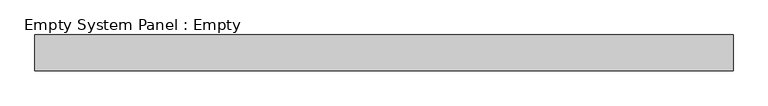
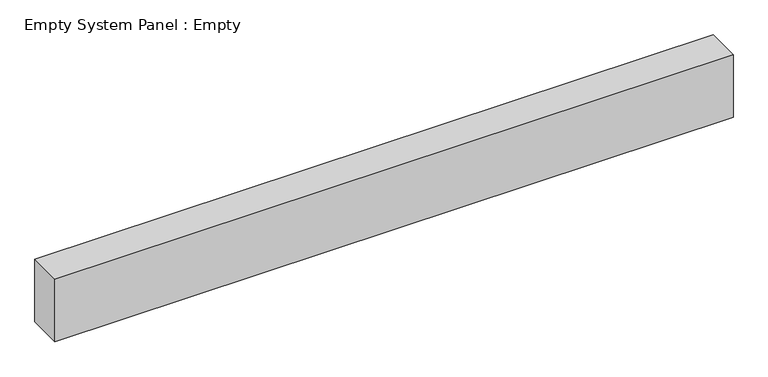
"""IFC4 building model written with IfcOpenShell, lengths in millimetres: plate geometry, Empty System Panel : Empty."""

from ifc_helpers import new_model, si_unit, origin, origin_with_axes, place, context, project, spatial, polyline, outline, extrude, source, transform, mapped, element, save


def empty_system_panel_empty_fbe7752e(model_context):
    return source(origin(), model_context, "Body", "SweptSolid", [
        extrude(outline(polyline([(975.0, -50.0), (-975.0, -50.0), (-975.0, 50.0), (975.0, 50.0), (975.0, -50.0)])), origin_with_axes(), (0.0, 0.0, 1.0), 190.0),
    ])


if __name__ == "__main__":
    model = new_model("IFC4")
    model_context = context("Model", 3, world=origin())
    ifc_project = project(units=[si_unit("LENGTHUNIT", "METRE", prefix="MILLI")], contexts=[model_context])
    site = spatial("IfcSite", under=ifc_project)
    building = spatial("IfcBuilding", under=site)
    placement = place(None, origin())
    empty_system_panel_empty_shape = empty_system_panel_empty_fbe7752e(model_context)
    element("IfcPlate", 1, ObjectType="Empty System Panel : Empty", at=placement, inside=building, context=model_context, shape_type="MappedRepresentation", body=[
        mapped(empty_system_panel_empty_shape, transform((0.0, 0.0, 0.0), x_axis=(1.0, 0.0, 0.0), y_axis=(0.0, 1.0, 0.0), z_axis=(0.0, 0.0, 1.0))),
    ])
    save(model, "model.ifc")
